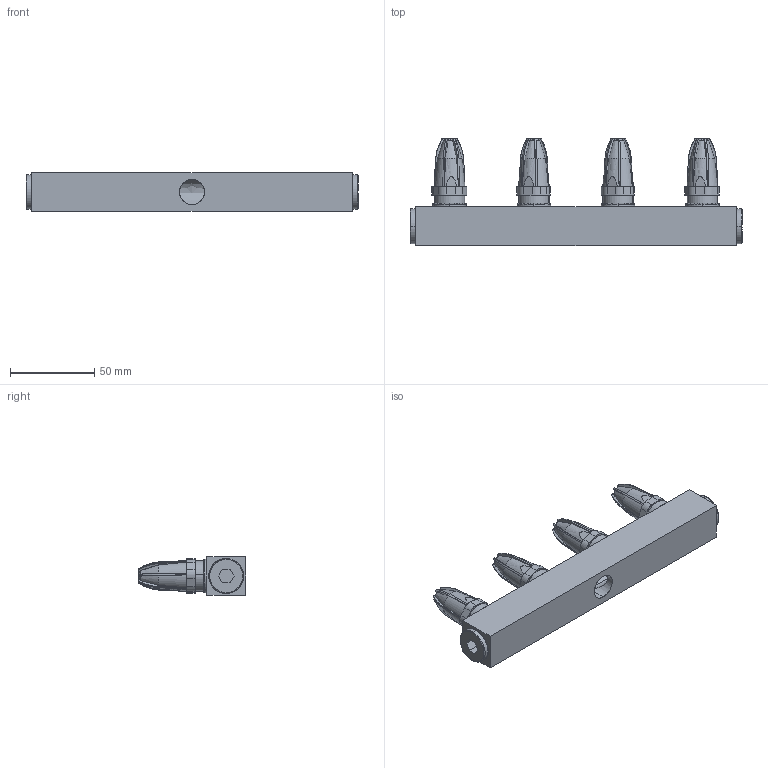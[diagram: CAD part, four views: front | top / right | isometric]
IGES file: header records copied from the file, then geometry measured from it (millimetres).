
Start section: SolidWorks IGES file using analytic representation for surfaces
Global section: file name: G:\Silvent\Ritningar\Övrigt\IGES\Silvent 304+L.IGS; native system: SolidWorks 2006 by SolidWorks Corporation; preprocessor: SolidWorks 2006 by SolidWorks Corporation; author: SilvRaTi; date: 070308.084703; units: millimetre
Bounding box: 197 x 63.65 x 23 mm (x, y, z)
Surface area: 46994.9 mm2 (no closed solid volume)
Topology: 0 solids, 0 shells, 412 faces, 5494 edges, 5494 vertices
Faces by surface type: bspline 208, revolution 204
